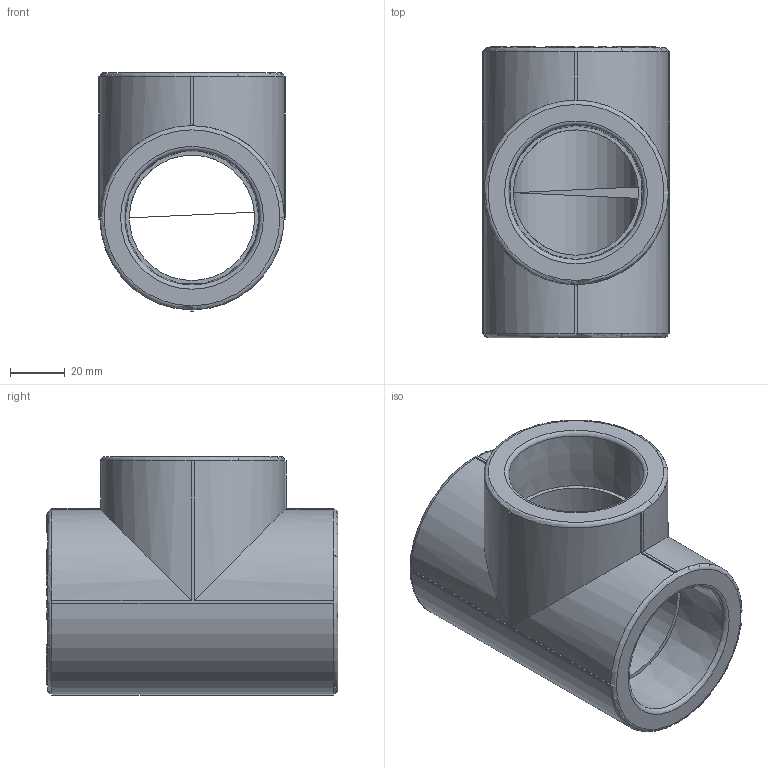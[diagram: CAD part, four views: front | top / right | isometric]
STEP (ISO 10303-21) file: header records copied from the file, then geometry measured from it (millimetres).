
FILE_DESCRIPTION(('STEP AP203'), '1');
FILE_NAME('ÂÐ.752241.030 - VTp.731.0.050', '', ('UNSPECIFIED'), ('UNSPECIFIED'), 'C3D Converter', 'C3D Toolkit', '');
FILE_SCHEMA(('CONFIG_CONTROL_DESIGN'));
Length unit declared in the file: millimetre
Products named in the file (1): ВР.752241.030
Bounding box: 68 x 106.1 x 86.8 mm (x, y, z)
Volume: 214143.1 mm3; surface area: 49173.4 mm2
Topology: 1 solids, 1 shells, 1045 faces, 2928 edges, 1942 vertices
Faces by surface type: extrusion 606, plane 393, cylinder 37, torus 6, cone 3
Full cylindrical faces by diameter (mm): 8 x1, 45.6 x2
Entity records: 38895 total; most frequent: CARTESIAN_POINT 15228, ORIENTED_EDGE 5830, DIRECTION 2932, EDGE_CURVE 2915, VECTOR 1970, VERTEX_POINT 1942, B_SPLINE_CURVE_WITH_KNOTS 1820, LINE 1364
